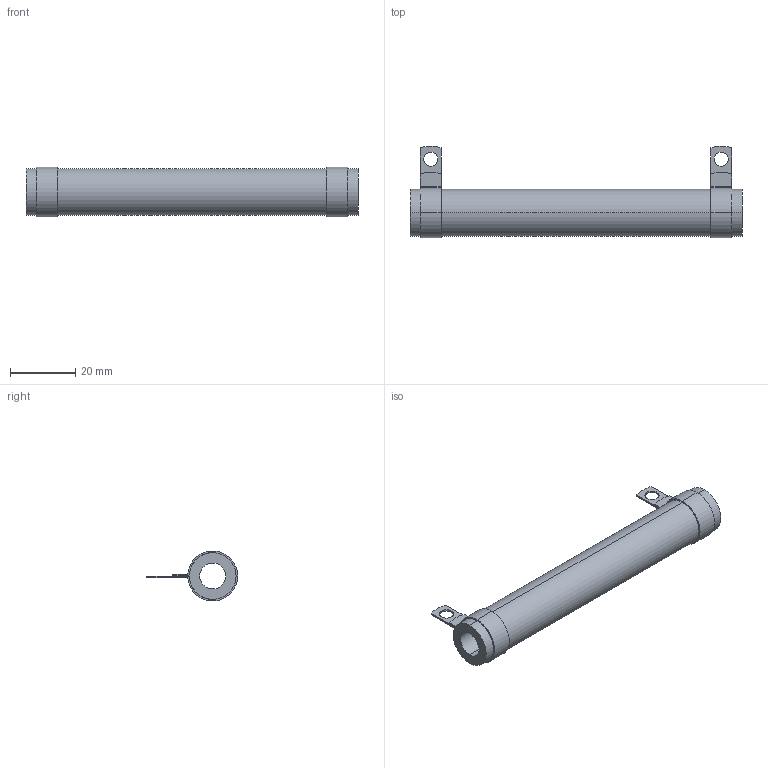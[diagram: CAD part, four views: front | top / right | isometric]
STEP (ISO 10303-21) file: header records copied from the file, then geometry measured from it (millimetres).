
FILE_DESCRIPTION (( 'STEP AP203' ), '1' );
FILE_NAME ('RBEF0090xxxxxKDB00.STEP', '2014-04-04T18:32:45', ( '' ), ( '' ), 'SwSTEP 2.0', 'SolidWorks 2012', '' );
FILE_SCHEMA (( 'CONFIG_CONTROL_DESIGN' ));
Length unit declared in the file: millimetre
Products named in the file (3): DAL15-140-XXX_DAL15-140-809-CLOSED; RBEF0090xxxxxKDB00; DAL013-03_DAL013-108
Assembly tree (3 placements, depth 2):
  RBEF0090xxxxxKDB00
    DAL013-03_DAL013-108
    DAL15-140-XXX_DAL15-140-809-CLOSED  x2
Bounding box: 101.6 x 27.97 x 15.29 mm (x, y, z)
Volume: 11653.5 mm3; surface area: 9012.7 mm2
Topology: 3 solids, 3 shells, 64 faces, 142 edges, 84 vertices
Faces by surface type: cylinder 34, plane 30
Entity records: 1306 total; most frequent: DIRECTION 197, CARTESIAN_POINT 164, ORIENTED_EDGE 154, AXIS2_PLACEMENT_3D 79, EDGE_CURVE 77, VERTEX_POINT 46, EDGE_LOOP 39, VECTOR 39
